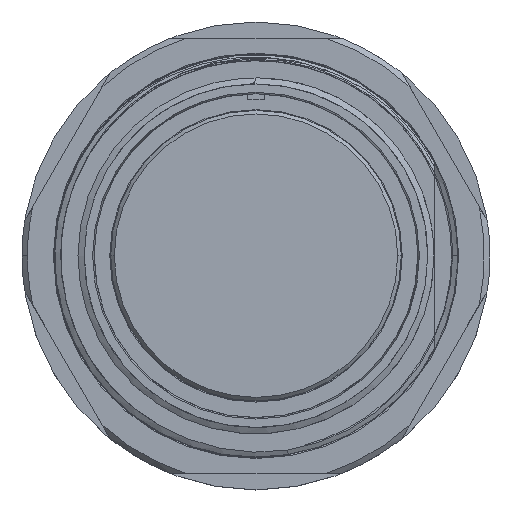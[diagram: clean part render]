
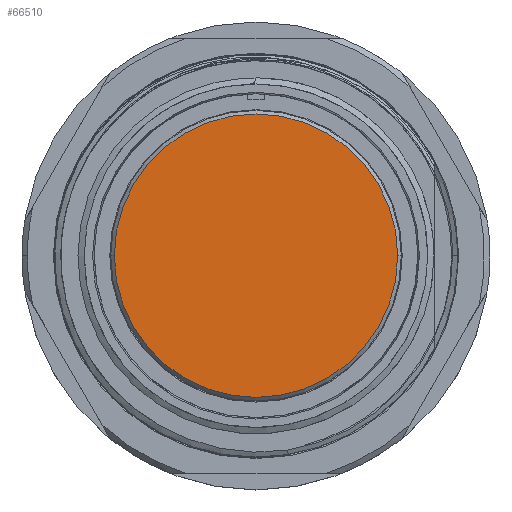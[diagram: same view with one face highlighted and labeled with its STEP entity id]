
A CAD part, top view. The second image highlights one B-rep face of the part: STEP entity #66510.
In plain terms, the highlighted planar face has unit normal (0, 0, 1).
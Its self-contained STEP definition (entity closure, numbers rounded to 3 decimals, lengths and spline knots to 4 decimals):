
#5730 = AXIS2_PLACEMENT_3D ( 'NONE', #107381, #78156, #15311 ) ;
#9456 = CIRCLE ( 'NONE', #5730, 0.792 ) ;
#12038 = PLANE ( 'NONE',  #109060 ) ;
#15311 = DIRECTION ( 'NONE',  ( 1., 0., 0. ) ) ;
#16155 = EDGE_CURVE ( 'NONE', #72870, #71363, #47432, .T. ) ;
#22872 = EDGE_LOOP ( 'NONE', ( #37998, #112460 ) ) ;
#37998 = ORIENTED_EDGE ( 'NONE', *, *, #48637, .T. ) ;
#44019 = CARTESIAN_POINT ( 'NONE',  ( 0., 0., -0.018 ) ) ;
#47432 = CIRCLE ( 'NONE', #62729, 0.792 ) ;
#48637 = EDGE_CURVE ( 'NONE', #71363, #72870, #9456, .T. ) ;
#62729 = AXIS2_PLACEMENT_3D ( 'NONE', #44019, #115848, #87811 ) ;
#66510 = ADVANCED_FACE ( 'NONE', ( #102950 ), #12038, .T. ) ;
#67055 = DIRECTION ( 'NONE',  ( 1., 0., 0. ) ) ;
#71363 = VERTEX_POINT ( 'NONE', #117245 ) ;
#72870 = VERTEX_POINT ( 'NONE', #97337 ) ;
#76054 = DIRECTION ( 'NONE',  ( 0., 0., 1. ) ) ;
#76638 = CARTESIAN_POINT ( 'NONE',  ( 0., 0., -0.018 ) ) ;
#78156 = DIRECTION ( 'NONE',  ( 0., 0., 1. ) ) ;
#87811 = DIRECTION ( 'NONE',  ( 1., 0., 0. ) ) ;
#97337 = CARTESIAN_POINT ( 'NONE',  ( 0.792, 0., -0.018 ) ) ;
#102950 = FACE_OUTER_BOUND ( 'NONE', #22872, .T. ) ;
#107381 = CARTESIAN_POINT ( 'NONE',  ( 0., 0., -0.018 ) ) ;
#109060 = AXIS2_PLACEMENT_3D ( 'NONE', #76638, #76054, #67055 ) ;
#112460 = ORIENTED_EDGE ( 'NONE', *, *, #16155, .T. ) ;
#115848 = DIRECTION ( 'NONE',  ( 0., 0., 1. ) ) ;
#117245 = CARTESIAN_POINT ( 'NONE',  ( -0.792, 0., -0.018 ) ) ;
